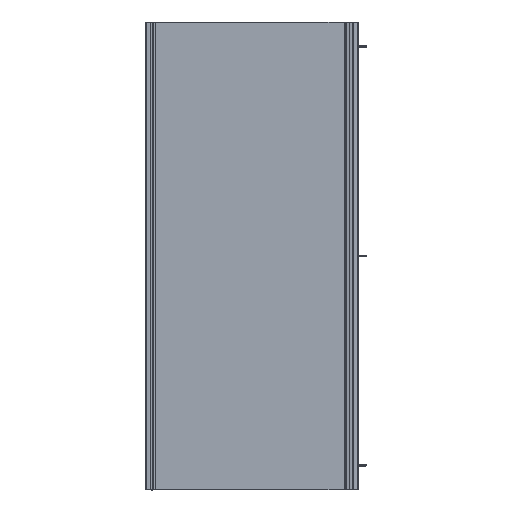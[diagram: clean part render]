
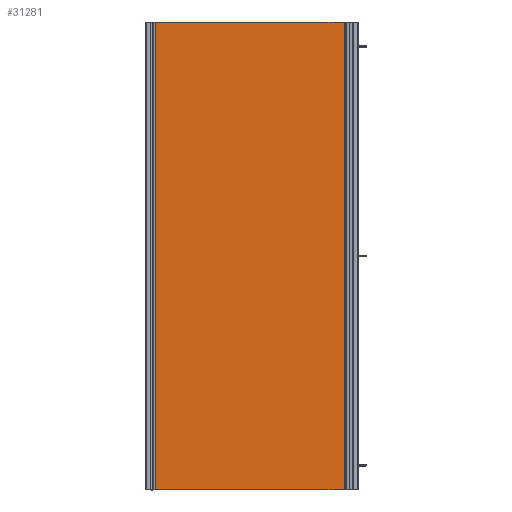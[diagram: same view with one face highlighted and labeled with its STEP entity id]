
A CAD part, front view. The second image highlights one B-rep face of the part: STEP entity #31281.
In plain terms, the highlighted planar face has unit normal (0, -1, 0) as drawn and (0, 1, 0) by its records, which use the part's own axes.
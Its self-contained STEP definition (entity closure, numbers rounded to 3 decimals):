
#2813=PLANE('',#34116);
#4447=FACE_OUTER_BOUND('',#6385,.T.);
#6385=EDGE_LOOP('',(#28399,#28400,#28401,#28402));
#8858=LINE('',#55226,#11461);
#8863=LINE('',#55237,#11466);
#8865=LINE('',#55240,#11468);
#8866=LINE('',#55241,#11469);
#11461=VECTOR('',#42091,1900.);
#11466=VECTOR('',#42100,1900.);
#11468=VECTOR('',#42104,787.);
#11469=VECTOR('',#42105,787.);
#15629=VERTEX_POINT('',#55219);
#15632=VERTEX_POINT('',#55224);
#15635=VERTEX_POINT('',#55234);
#15636=VERTEX_POINT('',#55236);
#19932=EDGE_CURVE('',#15632,#15629,#8858,.T.);
#19937=EDGE_CURVE('',#15636,#15635,#8863,.T.);
#19939=EDGE_CURVE('',#15635,#15629,#8865,.T.);
#19940=EDGE_CURVE('',#15636,#15632,#8866,.T.);
#28399=ORIENTED_EDGE('',*,*,#19939,.T.);
#28400=ORIENTED_EDGE('',*,*,#19932,.F.);
#28401=ORIENTED_EDGE('',*,*,#19940,.F.);
#28402=ORIENTED_EDGE('',*,*,#19937,.T.);
#31281=ADVANCED_FACE('',(#4447),#2813,.T.);
#34116=AXIS2_PLACEMENT_3D('',#55239,#42102,#42103);
#42091=DIRECTION('',(0.,0.,1.));
#42100=DIRECTION('',(0.,0.,1.));
#42102=DIRECTION('center_axis',(0.,1.,0.));
#42103=DIRECTION('ref_axis',(0.,0.,1.));
#42104=DIRECTION('',(1.,0.,0.));
#42105=DIRECTION('',(1.,0.,0.));
#55219=CARTESIAN_POINT('',(754.31,17.628,1900.));
#55224=CARTESIAN_POINT('',(754.31,17.628,0.));
#55226=CARTESIAN_POINT('',(754.31,17.628,0.));
#55234=CARTESIAN_POINT('',(-32.69,17.628,1900.));
#55236=CARTESIAN_POINT('',(-32.69,17.628,0.));
#55237=CARTESIAN_POINT('',(-32.69,17.628,0.));
#55239=CARTESIAN_POINT('Origin',(-32.69,17.628,0.));
#55240=CARTESIAN_POINT('',(-32.69,17.628,1900.));
#55241=CARTESIAN_POINT('',(-32.69,17.628,0.));
